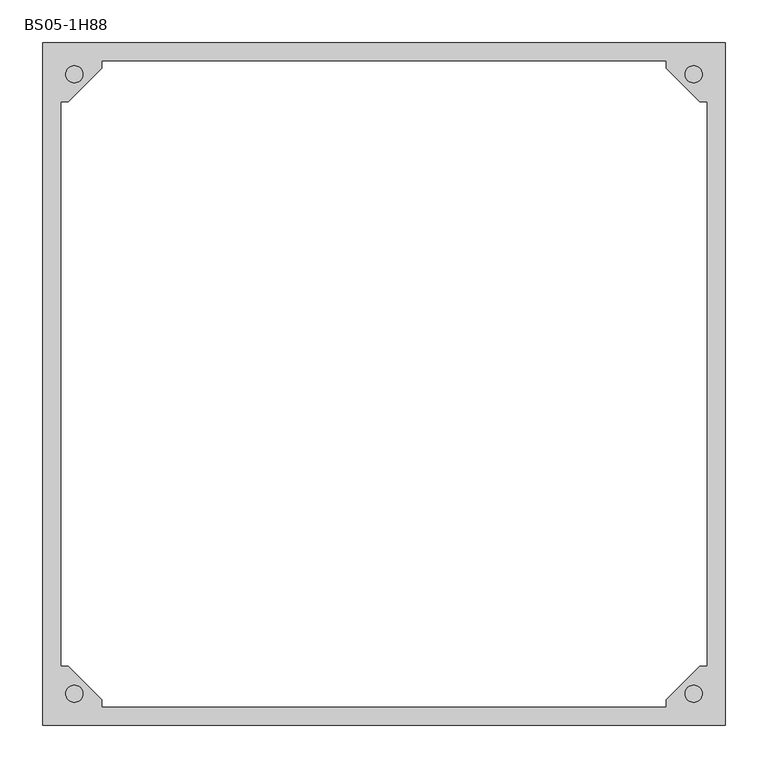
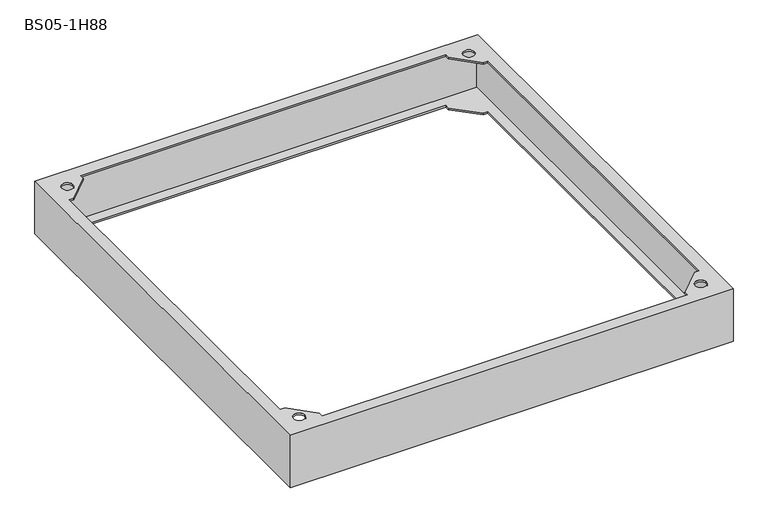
"""IFC4 building model written with IfcOpenShell, lengths in millimetres: proxy geometry, Цоколь для напольных шкафов : BS05-1H88."""

from ifc_helpers import new_model, si_unit, frame, origin, place, context, project, spatial, polyline, circle_curve, source, transform, mapped, element, save
from ifc_brep_helpers import plane_surface, revolved_surface, advanced_brep


def bs05_1h88_060fac11(model_context):
    return source(origin(), model_context, "Body", "AdvancedBrep", [
        advanced_brep(
        [(400.0, -400.0, 100.0), (400.0, -400.0, 97.0), (400.0, -400.0, 3.0), (400.0, -400.0, 0.0), (400.0, 400.0, 0.0), (400.0, 400.0, 3.0), (400.0, 400.0, 97.0), (400.0, 400.0, 100.0), (378.0, 330.0, 0.0), (378.0, -330.0, 0.0), (378.0, -330.0, 3.0), (378.0, 330.0, 3.0), (397.0, 397.0, 97.0), (397.0, 397.0, 3.0), (397.0, -397.0, 3.0), (397.0, -397.0, 97.0), (378.0, 330.0, 97.0), (378.0, -330.0, 97.0), (378.0, -330.0, 100.0), (378.0, 330.0, 100.0), (-400.0, -400.0, 100.0), (-400.0, -400.0, 97.0), (-400.0, -400.0, 3.0), (-400.0, -400.0, 0.0), (330.0, -378.0, 0.0), (-330.0, -378.0, 0.0), (-330.0, -378.0, 3.0), (330.0, -378.0, 3.0), (-397.0, -397.0, 3.0), (-397.0, -397.0, 97.0), (330.0, -378.0, 97.0), (-330.0, -378.0, 97.0), (-330.0, -378.0, 100.0), (330.0, -378.0, 100.0), (-400.0, 400.0, 100.0), (-400.0, 400.0, 97.0), (-400.0, 400.0, 3.0), (-400.0, 400.0, 0.0), (-378.0, -330.0, 0.0), (-378.0, 330.0, 0.0), (-378.0, 330.0, 3.0), (-378.0, -330.0, 3.0), (-397.0, 397.0, 3.0), (-397.0, 397.0, 97.0), (-378.0, -330.0, 97.0), (-378.0, 330.0, 97.0), (-378.0, 330.0, 100.0), (-378.0, -330.0, 100.0), (-330.0, -370.0, 100.0), (-370.0, -330.0, 100.0), (-370.0, 330.0, 100.0), (-330.0, 370.0, 100.0), (-330.0, 378.0, 100.0), (330.0, 378.0, 100.0), (330.0, 370.0, 100.0), (370.0, 330.0, 100.0), (370.0, -330.0, 100.0), (330.0, -370.0, 100.0), (-352.9289322, -362.9289322, 100.0), (-372.9289322, -362.9289322, 100.0), (372.9289322, -362.9289322, 100.0), (352.9289322, -362.9289322, 100.0), (-352.9289322, 362.9289322, 100.0), (-372.9289322, 362.9289322, 100.0), (372.9289322, 362.9289322, 100.0), (352.9289322, 362.9289322, 100.0), (370.0, 330.0, 0.0), (330.0, 370.0, 0.0), (330.0, 378.0, 0.0), (-330.0, 378.0, 0.0), (-330.0, 370.0, 0.0), (-370.0, 330.0, 0.0), (-370.0, -330.0, 0.0), (-330.0, -370.0, 0.0), (330.0, -370.0, 0.0), (370.0, -330.0, 0.0), (330.0, 378.0, 3.0), (-330.0, 378.0, 3.0), (370.0, -330.0, 3.0), (330.0, -370.0, 3.0), (-330.0, -370.0, 3.0), (-370.0, -330.0, 3.0), (-370.0, 330.0, 3.0), (-330.0, 370.0, 3.0), (330.0, 370.0, 3.0), (370.0, 330.0, 3.0), (-370.0, -330.0, 97.0), (-330.0, -370.0, 97.0), (330.0, -370.0, 97.0), (370.0, -330.0, 97.0), (370.0, 330.0, 97.0), (330.0, 370.0, 97.0), (330.0, 378.0, 97.0), (-330.0, 378.0, 97.0), (-330.0, 370.0, 97.0), (-370.0, 330.0, 97.0), (-352.9289322, -362.9289322, 97.0), (-372.9289322, -362.9289322, 97.0), (372.9289322, -362.9289322, 97.0), (352.9289322, -362.9289322, 97.0), (-352.9289322, 362.9289322, 97.0), (-372.9289322, 362.9289322, 97.0), (372.9289322, 362.9289322, 97.0), (352.9289322, 362.9289322, 97.0)],
        [
            (0, 1),
            (1, 2),
            (2, 3),
            (3, 4),
            (4, 5),
            (5, 6),
            (6, 7),
            (7, 0),
            (8, 9),
            (9, 10),
            (10, 11),
            (11, 8),
            (12, 13),
            (13, 14),
            (14, 15),
            (15, 12),
            (16, 17),
            (17, 18),
            (18, 19),
            (19, 16),
            (0, 20),
            (20, 21),
            (21, 22),
            (22, 23),
            (23, 3),
            (24, 25),
            (25, 26),
            (26, 27),
            (27, 24),
            (14, 28),
            (28, 29),
            (29, 15),
            (30, 31),
            (31, 32),
            (32, 33),
            (33, 30),
            (20, 34),
            (34, 35),
            (35, 36),
            (36, 37),
            (37, 23),
            (38, 39),
            (39, 40),
            (40, 41),
            (41, 38),
            (28, 42),
            (42, 43),
            (43, 29),
            (44, 45),
            (45, 46),
            (46, 47),
            (47, 44),
            (7, 34),
            (48, 49),
            (49, 47),
            (46, 50),
            (50, 51),
            (51, 52),
            (52, 53),
            (53, 54),
            (54, 55),
            (55, 19),
            (18, 56),
            (56, 57),
            (57, 33),
            (32, 48),
            (58, 59, circle_curve(frame((-362.9289322, -362.9289322, 100.0), z_axis=(0.0, 0.0, -1.0), x_axis=(-1.0, 0.0, 0.0)), 10.0)),
            (59, 58, circle_curve(frame((-362.9289322, -362.9289322, 100.0), z_axis=(0.0, 0.0, -1.0), x_axis=(-1.0, 0.0, 0.0)), 10.0)),
            (60, 61, circle_curve(frame((362.9289322, -362.9289322, 100.0), z_axis=(0.0, 0.0, -1.0), x_axis=(-1.0, 0.0, 0.0)), 10.0)),
            (61, 60, circle_curve(frame((362.9289322, -362.9289322, 100.0), z_axis=(0.0, 0.0, -1.0), x_axis=(-1.0, 0.0, 0.0)), 10.0)),
            (62, 63, circle_curve(frame((-362.9289322, 362.9289322, 100.0), z_axis=(0.0, 0.0, -1.0), x_axis=(-1.0, 0.0, 0.0)), 10.0)),
            (63, 62, circle_curve(frame((-362.9289322, 362.9289322, 100.0), z_axis=(0.0, 0.0, -1.0), x_axis=(-1.0, 0.0, 0.0)), 10.0)),
            (64, 65, circle_curve(frame((362.9289322, 362.9289322, 100.0), z_axis=(0.0, 0.0, -1.0), x_axis=(-1.0, 0.0, 0.0)), 10.0)),
            (65, 64, circle_curve(frame((362.9289322, 362.9289322, 100.0), z_axis=(0.0, 0.0, -1.0), x_axis=(-1.0, 0.0, 0.0)), 10.0)),
            (4, 37),
            (8, 66),
            (66, 67),
            (67, 68),
            (68, 69),
            (69, 70),
            (70, 71),
            (71, 39),
            (38, 72),
            (72, 73),
            (73, 25),
            (24, 74),
            (74, 75),
            (75, 9),
            (68, 76),
            (76, 77),
            (77, 69),
            (13, 42),
            (10, 78),
            (78, 79),
            (79, 27),
            (26, 80),
            (80, 81),
            (81, 41),
            (40, 82),
            (82, 83),
            (83, 77),
            (76, 84),
            (84, 85),
            (85, 11),
            (12, 43),
            (86, 87),
            (87, 31),
            (30, 88),
            (88, 89),
            (89, 17),
            (16, 90),
            (90, 91),
            (91, 92),
            (92, 93),
            (93, 94),
            (94, 95),
            (95, 45),
            (44, 86),
            (96, 97, circle_curve(frame((-362.9289322, -362.9289322, 97.0), z_axis=(0.0, 0.0, 1.0), x_axis=(-1.0, 0.0, 0.0)), 10.0)),
            (97, 96, circle_curve(frame((-362.9289322, -362.9289322, 97.0), z_axis=(0.0, 0.0, 1.0), x_axis=(-1.0, 0.0, 0.0)), 10.0)),
            (98, 99, circle_curve(frame((362.9289322, -362.9289322, 97.0), z_axis=(0.0, 0.0, 1.0), x_axis=(-1.0, 0.0, 0.0)), 10.0)),
            (99, 98, circle_curve(frame((362.9289322, -362.9289322, 97.0), z_axis=(0.0, 0.0, 1.0), x_axis=(-1.0, 0.0, 0.0)), 10.0)),
            (100, 101, circle_curve(frame((-362.9289322, 362.9289322, 97.0), z_axis=(0.0, 0.0, 1.0), x_axis=(-1.0, 0.0, 0.0)), 10.0)),
            (101, 100, circle_curve(frame((-362.9289322, 362.9289322, 97.0), z_axis=(0.0, 0.0, 1.0), x_axis=(-1.0, 0.0, 0.0)), 10.0)),
            (102, 103, circle_curve(frame((362.9289322, 362.9289322, 97.0), z_axis=(0.0, 0.0, 1.0), x_axis=(-1.0, 0.0, 0.0)), 10.0)),
            (103, 102, circle_curve(frame((362.9289322, 362.9289322, 97.0), z_axis=(0.0, 0.0, 1.0), x_axis=(-1.0, 0.0, 0.0)), 10.0)),
            (52, 93),
            (92, 53),
            (87, 48),
            (86, 49),
            (89, 56),
            (88, 57),
            (95, 50),
            (94, 51),
            (91, 54),
            (90, 55),
            (58, 96),
            (97, 59),
            (60, 98),
            (99, 61),
            (62, 100),
            (101, 63),
            (64, 102),
            (103, 65),
            (73, 80),
            (72, 81),
            (75, 78),
            (74, 79),
            (71, 82),
            (70, 83),
            (67, 84),
            (66, 85),
        ],
        [
            plane_surface(frame((400.0, 400.0, 100.0), z_axis=(1.0, 0.0, 0.0), x_axis=(0.0, -1.0, 0.0))),
            plane_surface(frame((378.0, 378.0, 0.0), z_axis=(-1.0, 0.0, 0.0), x_axis=(0.0, -1.0, 0.0))),
            plane_surface(frame((397.0, 397.0, 3.0), z_axis=(-1.0, 0.0, 0.0), x_axis=(0.0, -1.0, 0.0))),
            plane_surface(frame((378.0, 378.0, 97.0), z_axis=(-1.0, 0.0, 0.0), x_axis=(0.0, -1.0, 0.0))),
            plane_surface(frame((400.0, -400.0, 100.0), z_axis=(0.0, -1.0, 0.0), x_axis=(-1.0, 0.0, 0.0))),
            plane_surface(frame((378.0, -378.0, 0.0), z_axis=(0.0, 1.0, 0.0), x_axis=(-1.0, 0.0, 0.0))),
            plane_surface(frame((397.0, -397.0, 3.0), z_axis=(0.0, 1.0, 0.0), x_axis=(-1.0, 0.0, 0.0))),
            plane_surface(frame((378.0, -378.0, 97.0), z_axis=(0.0, 1.0, 0.0), x_axis=(-1.0, 0.0, 0.0))),
            plane_surface(frame((-400.0, -400.0, 100.0), z_axis=(-1.0, 0.0, 0.0), x_axis=(0.0, 1.0, 0.0))),
            plane_surface(frame((-378.0, -378.0, 0.0), z_axis=(1.0, 0.0, 0.0), x_axis=(0.0, 1.0, 0.0))),
            plane_surface(frame((-397.0, -397.0, 3.0), z_axis=(1.0, 0.0, 0.0), x_axis=(0.0, 1.0, 0.0))),
            plane_surface(frame((-378.0, -378.0, 97.0), z_axis=(1.0, 0.0, 0.0), x_axis=(0.0, 1.0, 0.0))),
            plane_surface(frame((-378.0, 378.0, 100.0), z_axis=(0.0, 0.0, 1.0), x_axis=(1.0, 0.0, 0.0))),
            plane_surface(frame((-400.0, 400.0, 100.0), z_axis=(0.0, 1.0, 0.0), x_axis=(1.0, 0.0, 0.0))),
            plane_surface(frame((-400.0, 400.0, 0.0), z_axis=(0.0, 0.0, -1.0), x_axis=(1.0, 0.0, 0.0))),
            plane_surface(frame((-378.0, 378.0, 0.0), z_axis=(0.0, -1.0, 0.0), x_axis=(1.0, 0.0, 0.0))),
            plane_surface(frame((-378.0, 378.0, 3.0), z_axis=(0.0, 0.0, 1.0), x_axis=(1.0, 0.0, 0.0))),
            plane_surface(frame((-397.0, 397.0, 3.0), z_axis=(0.0, -1.0, 0.0), x_axis=(1.0, 0.0, 0.0))),
            plane_surface(frame((-397.0, 397.0, 97.0), z_axis=(0.0, 0.0, -1.0), x_axis=(1.0, 0.0, 0.0))),
            plane_surface(frame((-378.0, 378.0, 97.0), z_axis=(0.0, -1.0, 0.0), x_axis=(1.0, 0.0, 0.0))),
            plane_surface(frame((-330.0, -400.0, 100.0), z_axis=(1.0, 0.0, 0.0), x_axis=(0.0, 0.0, -1.0))),
            plane_surface(frame((-330.0, -370.0, 100.0), z_axis=(0.7071067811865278, 0.7071067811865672, 0.0), x_axis=(0.0, 0.0, -1.0))),
            plane_surface(frame((-370.0, -330.0, 100.0), z_axis=(0.0, 1.0, 0.0), x_axis=(0.0, 0.0, -1.0))),
            plane_surface(frame((400.0, -330.0, 100.0), z_axis=(0.0, 1.0, 0.0), x_axis=(0.0, 0.0, -1.0))),
            plane_surface(frame((370.0, -330.0, 100.0), z_axis=(-0.7071067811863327, 0.7071067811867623, 0.0), x_axis=(0.0, 0.0, -1.0))),
            plane_surface(frame((330.0, -370.0, 100.0), z_axis=(-1.0, 0.0, 0.0), x_axis=(0.0, 0.0, -1.0))),
            plane_surface(frame((-400.0, 330.0, 100.0), z_axis=(0.0, -1.0, 0.0), x_axis=(0.0, 0.0, -1.0))),
            plane_surface(frame((-370.0, 330.0, 100.0), z_axis=(0.7071067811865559, -0.7071067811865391, 0.0), x_axis=(0.0, 0.0, -1.0))),
            plane_surface(frame((-330.0, 370.0, 100.0), z_axis=(1.0, 0.0, 0.0), x_axis=(0.0, 0.0, -1.0))),
            plane_surface(frame((330.0, 400.0, 100.0), z_axis=(-1.0, 0.0, 0.0), x_axis=(0.0, 0.0, -1.0))),
            plane_surface(frame((330.0, 370.0, 100.0), z_axis=(-0.7071067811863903, -0.7071067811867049, 0.0), x_axis=(0.0, 0.0, -1.0))),
            plane_surface(frame((370.0, 330.0, 100.0), z_axis=(0.0, -1.0, 0.0), x_axis=(0.0, 0.0, -1.0))),
            revolved_surface(polyline([(-372.9289322, -362.9289322, 97.0), (-372.9289322, -362.9289322, 100.0)]), (-362.9289322, -362.9289322, 100.0), (0.0, 0.0, -1.0)),
            revolved_surface(polyline([(352.9289322, -362.9289322, 97.0), (352.9289322, -362.9289322, 100.0)]), (362.9289322, -362.9289322, 100.0), (0.0, 0.0, -1.0)),
            revolved_surface(polyline([(-372.9289322, 362.9289322, 97.0), (-372.9289322, 362.9289322, 100.0)]), (-362.9289322, 362.9289322, 100.0), (0.0, 0.0, -1.0)),
            revolved_surface(polyline([(352.9289322, 362.9289322, 97.0), (352.9289322, 362.9289322, 100.0)]), (362.9289322, 362.9289322, 100.0), (0.0, 0.0, -1.0)),
            plane_surface(frame((-330.0, -400.0, 3.0), z_axis=(1.0, 0.0, 0.0), x_axis=(0.0, 0.0, -1.0))),
            plane_surface(frame((-330.0, -370.0, 3.0), z_axis=(0.7071067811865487, 0.7071067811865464, 0.0), x_axis=(0.0, 0.0, -1.0))),
            plane_surface(frame((-370.0, -330.0, 3.0), z_axis=(0.0, 1.0, 0.0), x_axis=(0.0, 0.0, -1.0))),
            plane_surface(frame((400.0, -330.0, 3.0), z_axis=(0.0, 1.0, 0.0), x_axis=(0.0, 0.0, -1.0))),
            plane_surface(frame((370.0, -330.0, 3.0), z_axis=(-0.7071067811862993, 0.7071067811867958, 0.0), x_axis=(0.0, 0.0, -1.0))),
            plane_surface(frame((330.0, -370.0, 3.0), z_axis=(-1.0, 0.0, 0.0), x_axis=(0.0, 0.0, -1.0))),
            plane_surface(frame((-400.0, 330.0, 3.0), z_axis=(0.0, -1.0, 0.0), x_axis=(0.0, 0.0, -1.0))),
            plane_surface(frame((-370.0, 330.0, 3.0), z_axis=(0.7071067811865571, -0.707106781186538, 0.0), x_axis=(0.0, 0.0, -1.0))),
            plane_surface(frame((-330.0, 370.0, 3.0), z_axis=(1.0, 0.0, 0.0), x_axis=(0.0, 0.0, -1.0))),
            plane_surface(frame((330.0, 400.0, 3.0), z_axis=(-1.0, 0.0, 0.0), x_axis=(0.0, 0.0, -1.0))),
            plane_surface(frame((330.0, 370.0, 3.0), z_axis=(-0.7071067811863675, -0.7071067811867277, 0.0), x_axis=(0.0, 0.0, -1.0))),
            plane_surface(frame((370.0, 330.0, 3.0), z_axis=(0.0, -1.0, 0.0), x_axis=(0.0, 0.0, -1.0))),
        ],
        [
            (0, [[1, 2, 3, 4, 5, 6, 7, 8]]),
            (1, [[9, 10, 11, 12]]),
            (2, [[13, 14, 15, 16]]),
            (3, [[17, 18, 19, 20]]),
            (4, [[-1, 21, 22, 23, 24, 25, -3, -2]]),
            (5, [[26, 27, 28, 29]]),
            (6, [[-15, 30, 31, 32]]),
            (7, [[33, 34, 35, 36]]),
            (8, [[-22, 37, 38, 39, 40, 41, -24, -23]]),
            (9, [[42, 43, 44, 45]]),
            (10, [[-31, 46, 47, 48]]),
            (11, [[49, 50, 51, 52]]),
            (12, [[-8, 53, -37, -21], [54, 55, -51, 56, 57, 58, 59, 60, 61, 62, -19, 63, 64, 65, -35, 66], [67, 68], [69, 70], [71, 72], [73, 74]]),
            (13, [[-38, -53, -7, -6, -5, 75, -40, -39]]),
            (14, [[-4, -25, -41, -75], [-9, 76, 77, 78, 79, 80, 81, 82, -42, 83, 84, 85, -26, 86, 87, 88]]),
            (15, [[-79, 89, 90, 91]]),
            (16, [[-14, 92, -46, -30], [-11, 93, 94, 95, -28, 96, 97, 98, -44, 99, 100, 101, -90, 102, 103, 104]]),
            (17, [[-92, -13, 105, -47]]),
            (18, [[-32, -48, -105, -16], [106, 107, -33, 108, 109, 110, -17, 111, 112, 113, 114, 115, 116, 117, -49, 118], [119, 120], [121, 122], [123, 124], [125, 126]]),
            (19, [[-59, 127, -114, 128]]),
            (20, [[129, -66, -34, -107]]),
            (21, [[-54, -129, -106, 130]]),
            (22, [[-130, -118, -52, -55]]),
            (23, [[131, -63, -18, -110]]),
            (24, [[-64, -131, -109, 132]]),
            (25, [[-132, -108, -36, -65]]),
            (26, [[133, -56, -50, -117]]),
            (27, [[-57, -133, -116, 134]]),
            (28, [[-134, -115, -127, -58]]),
            (29, [[135, -60, -128, -113]]),
            (30, [[-61, -135, -112, 136]]),
            (31, [[-136, -111, -20, -62]]),
            (32, [[-67, 137, -120, 138]]),
            (32, [[-68, -138, -119, -137]]),
            (33, [[-69, 139, -122, 140]]),
            (33, [[-70, -140, -121, -139]]),
            (34, [[-71, 141, -124, 142]]),
            (34, [[-72, -142, -123, -141]]),
            (35, [[-73, 143, -126, 144]]),
            (35, [[-74, -144, -125, -143]]),
            (36, [[145, -96, -27, -85]]),
            (37, [[-97, -145, -84, 146]]),
            (38, [[-146, -83, -45, -98]]),
            (39, [[147, -93, -10, -88]]),
            (40, [[-94, -147, -87, 148]]),
            (41, [[-148, -86, -29, -95]]),
            (42, [[149, -99, -43, -82]]),
            (43, [[-100, -149, -81, 150]]),
            (44, [[-150, -80, -91, -101]]),
            (45, [[151, -102, -89, -78]]),
            (46, [[-103, -151, -77, 152]]),
            (47, [[-152, -76, -12, -104]]),
        ],
    ),
    ])


if __name__ == "__main__":
    model = new_model("IFC4")
    model_context = context("Model", 3, world=origin())
    ifc_project = project(units=[si_unit("LENGTHUNIT", "METRE", prefix="MILLI")], contexts=[model_context])
    site = spatial("IfcSite", under=ifc_project)
    building = spatial("IfcBuilding", under=site)
    placement = place(None, origin())
    bs05_1h88_shape = bs05_1h88_060fac11(model_context)
    element("IfcBuildingElementProxy", 1, Name="Цоколь для напольных шкафов : BS05-1H88", ObjectType="Цоколь для напольных шкафов : BS05-1H88", at=placement, inside=building, context=model_context, shape_type="MappedRepresentation", body=[
        mapped(bs05_1h88_shape, transform((0.0, 0.0, 0.0), x_axis=(1.0, 0.0, 0.0), y_axis=(0.0, 1.0, 0.0), z_axis=(0.0, 0.0, 1.0))),
    ])
    save(model, "model.ifc")
